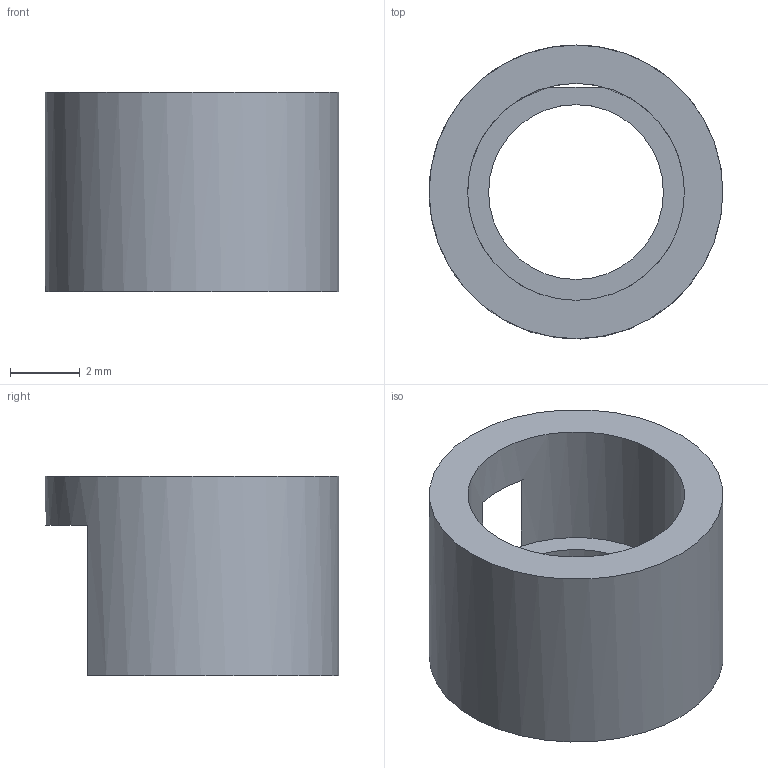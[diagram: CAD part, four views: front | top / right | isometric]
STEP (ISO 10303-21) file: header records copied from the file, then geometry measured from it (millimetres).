
FILE_DESCRIPTION(('Open CASCADE Model'),'2;1');
FILE_NAME('Open CASCADE Shape Model','2026-09-04T20:35:59',('Author'),( 'Open CASCADE'),'Open CASCADE STEP processor 7.7','Open CASCADE 7.7' ,'Unknown');
FILE_SCHEMA(('AUTOMOTIVE_DESIGN { 1 0 10303 214 1 1 1 1 }'));
Length unit declared in the file: millimetre
Products named in the file (1): Open CASCADE STEP translator 7.7 24
Bounding box: 8.4 x 8.4 x 5.7 mm (x, y, z)
Volume: 131.7 mm3; surface area: 316.1 mm2
Topology: 1 solids, 1 shells, 10 faces, 27 edges, 18 vertices
Faces by surface type: plane 6, cylinder 4
Full cylindrical faces by diameter (mm): 5 x1, 6.2 x1, 8.4 x1
Entity records: 687 total; most frequent: CARTESIAN_POINT 160, DIRECTION 90, ORIENTED_EDGE 54, PCURVE 54, DEFINITIONAL_REPRESENTATION 54, LINE 37, VECTOR 37, EDGE_CURVE 27
